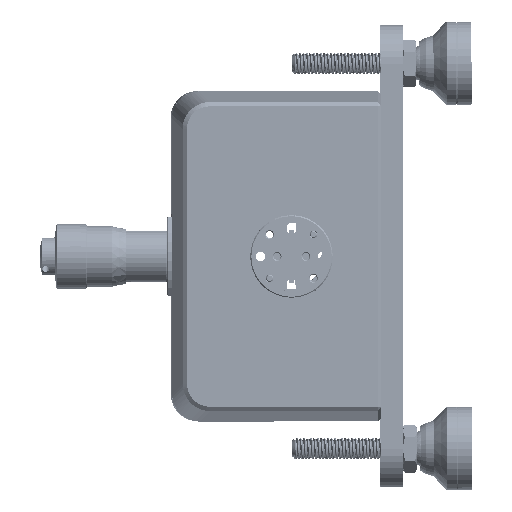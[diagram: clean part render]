
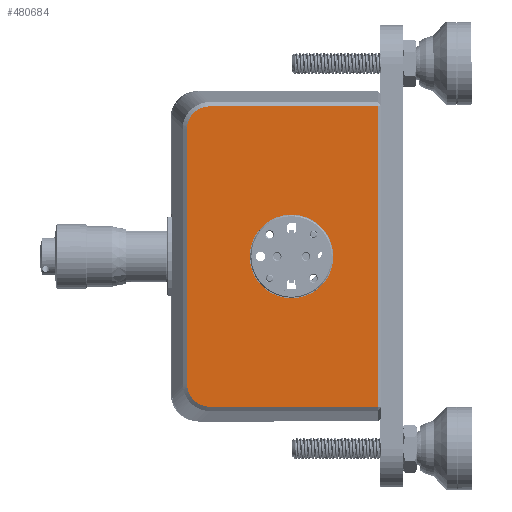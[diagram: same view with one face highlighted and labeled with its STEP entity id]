
A CAD part, left-side view. The second image highlights one B-rep face of the part: STEP entity #480684.
In plain terms, the highlighted planar face has unit normal (-1, -0.002, -0.001).
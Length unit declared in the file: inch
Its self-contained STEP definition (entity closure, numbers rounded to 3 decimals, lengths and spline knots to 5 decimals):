
#565 = CARTESIAN_POINT ( 'NONE',  ( -1.59489, -6.87131, 0.04683 ) ) ;
#1044 = DIRECTION ( 'NONE',  ( 1., 0.002, 0.001 ) ) ;
#6504 = ORIENTED_EDGE ( 'NONE', *, *, #457891, .F. ) ;
#13533 = CARTESIAN_POINT ( 'NONE',  ( -1.59378, -6.70755, -2.60331 ) ) ;
#28676 = VECTOR ( 'NONE', #464141, 39.37008 ) ;
#52113 = ORIENTED_EDGE ( 'NONE', *, *, #148852, .T. ) ;
#52436 = CARTESIAN_POINT ( 'NONE',  ( -1.59511, -6.66266, -0.16236 ) ) ;
#75604 = VECTOR ( 'NONE', #442111, 39.37008 ) ;
#76164 = FACE_OUTER_BOUND ( 'NONE', #394496, .T. ) ;
#76580 = EDGE_CURVE ( 'NONE', #334156, #447497, #233633, .T. ) ;
#79342 = CARTESIAN_POINT ( 'NONE',  ( -1.59511, -6.70421, -0.03361 ) ) ;
#84824 = CARTESIAN_POINT ( 'NONE',  ( -1.59489, -6.87131, 0.04683 ) ) ;
#89800 = CARTESIAN_POINT ( 'NONE',  ( -1.59324, -7.47924, -1.31746 ) ) ;
#91357 = CARTESIAN_POINT ( 'NONE',  ( -1.5918, -8.39923, -1.31627 ) ) ;
#92545 = DIRECTION ( 'NONE',  ( 0.001, -0.001, -1. ) ) ;
#96639 = CARTESIAN_POINT ( 'NONE',  ( -1.59395, -7.47747, 0.04762 ) ) ;
#100819 = CARTESIAN_POINT ( 'NONE',  ( -1.59451, -6.66416, -1.31852 ) ) ;
#132890 = CARTESIAN_POINT ( 'NONE',  ( -1.59352, -6.84731, -2.68336 ) ) ;
#138061 = DIRECTION ( 'NONE',  ( -0.001, 0.001, 1. ) ) ;
#144999 = EDGE_LOOP ( 'NONE', ( #6504, #422454 ) ) ;
#146968 = ORIENTED_EDGE ( 'NONE', *, *, #280351, .T. ) ;
#148852 = EDGE_CURVE ( 'NONE', #335837, #334156, #255600, .T. ) ;
#157084 = AXIS2_PLACEMENT_3D ( 'NONE', #510338, #257532, #385426 ) ;
#158564 = AXIS2_PLACEMENT_3D ( 'NONE', #89800, #1044, #92545 ) ;
#162541 = CARTESIAN_POINT ( 'NONE',  ( -1.59498, -6.81633, 0.04132 ) ) ;
#163794 = VERTEX_POINT ( 'NONE', #504670 ) ;
#167930 = CARTESIAN_POINT ( 'NONE',  ( -1.59494, -6.84382, 0.0468 ) ) ;
#168004 = EDGE_CURVE ( 'NONE', #331736, #507596, #457375, .T. ) ;
#182747 = AXIS2_PLACEMENT_3D ( 'NONE', #348892, #518232, #138061 ) ;
#190305 = VERTEX_POINT ( 'NONE', #297970 ) ;
#202795 = CARTESIAN_POINT ( 'NONE',  ( -1.59322, -7.61374, -0.93729 ) ) ;
#203492 = CARTESIAN_POINT ( 'NONE',  ( -1.59391, -6.66566, -2.47467 ) ) ;
#208968 = ORIENTED_EDGE ( 'NONE', *, *, #236658, .T. ) ;
#215866 = LINE ( 'NONE', #96639, #412792 ) ;
#215998 = CARTESIAN_POINT ( 'NONE',  ( -1.59381, -6.69203, -2.5801 ) ) ;
#233633 = LINE ( 'NONE', #100819, #75604 ) ;
#236658 = EDGE_CURVE ( 'NONE', #416637, #163794, #505745, .T. ) ;
#253727 = CARTESIAN_POINT ( 'NONE',  ( -1.59513, -6.66262, -0.13482 ) ) ;
#255600 = B_SPLINE_CURVE_WITH_KNOTS ( 'NONE', 3,
 ( #84824, #167930, #162541, #501127, #337245, #79342, #376172, #506593, #253727, #459502 ),
 .UNSPECIFIED., .F., .F.,
 ( 4, 2, 2, 2, 4 ),
 ( 0., 0.25, 0.5, 0.75, 1. ),
 .UNSPECIFIED. ) ;
#255778 = CARTESIAN_POINT ( 'NONE',  ( -1.59283, -7.61473, -1.69728 ) ) ;
#257532 = DIRECTION ( 'NONE',  ( -1., -0.002, -0.001 ) ) ;
#257544 = CARTESIAN_POINT ( 'NONE',  ( -1.59389, -6.66569, -2.50216 ) ) ;
#280351 = EDGE_CURVE ( 'NONE', #163794, #190305, #471533, .T. ) ;
#297970 = CARTESIAN_POINT ( 'NONE',  ( -1.59251, -8.39746, 0.04881 ) ) ;
#307614 = DIRECTION ( 'NONE',  ( -0.001, 0.001, 1. ) ) ;
#313045 = CARTESIAN_POINT ( 'NONE',  ( -1.59391, -6.66566, -2.47467 ) ) ;
#325928 = PLANE ( 'NONE',  #158564 ) ;
#328638 = FACE_BOUND ( 'NONE', #144999, .T. ) ;
#331736 = VERTEX_POINT ( 'NONE', #255778 ) ;
#334156 = VERTEX_POINT ( 'NONE', #52436 ) ;
#335837 = VERTEX_POINT ( 'NONE', #565 ) ;
#337245 = CARTESIAN_POINT ( 'NONE',  ( -1.59507, -6.74267, 0.00494 ) ) ;
#345403 = EDGE_CURVE ( 'NONE', #447497, #416637, #419958, .T. ) ;
#348309 = ORIENTED_EDGE ( 'NONE', *, *, #76580, .T. ) ;
#348892 = CARTESIAN_POINT ( 'NONE',  ( -1.59303, -7.61424, -1.31728 ) ) ;
#349244 = CARTESIAN_POINT ( 'NONE',  ( -1.59347, -6.87485, -2.68332 ) ) ;
#376172 = CARTESIAN_POINT ( 'NONE',  ( -1.59513, -6.68876, -0.05687 ) ) ;
#385426 = DIRECTION ( 'NONE',  ( -0.001, 0.001, 1. ) ) ;
#385440 = CARTESIAN_POINT ( 'NONE',  ( -1.59365, -6.76936, -2.65723 ) ) ;
#390935 = CARTESIAN_POINT ( 'NONE',  ( -1.5937, -6.7461, -2.64177 ) ) ;
#393511 = DIRECTION ( 'NONE',  ( -0.002, 1., -0.001 ) ) ;
#394496 = EDGE_LOOP ( 'NONE', ( #467780, #208968, #146968, #539976, #52113, #348309 ) ) ;
#412792 = VECTOR ( 'NONE', #393511, 39.37008 ) ;
#414982 = VECTOR ( 'NONE', #307614, 39.37008 ) ;
#416637 = VERTEX_POINT ( 'NONE', #507838 ) ;
#419958 = B_SPLINE_CURVE_WITH_KNOTS ( 'NONE', 3,
 ( #313045, #257544, #427072, #215998, #13533, #390935, #385440, #513046, #132890, #349244 ),
 .UNSPECIFIED., .F., .F.,
 ( 4, 2, 2, 2, 4 ),
 ( 0., 0.25, 0.5, 0.75, 1. ),
 .UNSPECIFIED. ) ;
#422454 = ORIENTED_EDGE ( 'NONE', *, *, #168004, .F. ) ;
#427072 = CARTESIAN_POINT ( 'NONE',  ( -1.59387, -6.67116, -2.52965 ) ) ;
#440805 = CIRCLE ( 'NONE', #157084, 0.38 ) ;
#442111 = DIRECTION ( 'NONE',  ( 0.001, -0.001, -1. ) ) ;
#447497 = VERTEX_POINT ( 'NONE', #203492 ) ;
#457375 = CIRCLE ( 'NONE', #182747, 0.38 ) ;
#457891 = EDGE_CURVE ( 'NONE', #507596, #331736, #440805, .T. ) ;
#459502 = CARTESIAN_POINT ( 'NONE',  ( -1.59511, -6.66266, -0.16236 ) ) ;
#461410 = CARTESIAN_POINT ( 'NONE',  ( -1.59253, -7.48101, -2.68254 ) ) ;
#464141 = DIRECTION ( 'NONE',  ( 0.002, -1., 0.001 ) ) ;
#467780 = ORIENTED_EDGE ( 'NONE', *, *, #345403, .T. ) ;
#471533 = LINE ( 'NONE', #91357, #414982 ) ;
#480684 = ADVANCED_FACE ( 'NONE', ( #328638, #76164 ), #325928, .F. ) ;
#501127 = CARTESIAN_POINT ( 'NONE',  ( -1.59505, -6.76588, 0.02046 ) ) ;
#504670 = CARTESIAN_POINT ( 'NONE',  ( -1.59109, -8.401, -2.68134 ) ) ;
#505745 = LINE ( 'NONE', #461410, #28676 ) ;
#506593 = CARTESIAN_POINT ( 'NONE',  ( -1.59513, -6.66802, -0.10736 ) ) ;
#507596 = VERTEX_POINT ( 'NONE', #202795 ) ;
#507838 = CARTESIAN_POINT ( 'NONE',  ( -1.59347, -6.87485, -2.68332 ) ) ;
#510321 = EDGE_CURVE ( 'NONE', #190305, #335837, #215866, .T. ) ;
#510338 = CARTESIAN_POINT ( 'NONE',  ( -1.59303, -7.61424, -1.31728 ) ) ;
#513046 = CARTESIAN_POINT ( 'NONE',  ( -1.59356, -6.81985, -2.67797 ) ) ;
#518232 = DIRECTION ( 'NONE',  ( -1., -0.002, -0.001 ) ) ;
#539976 = ORIENTED_EDGE ( 'NONE', *, *, #510321, .T. ) ;
